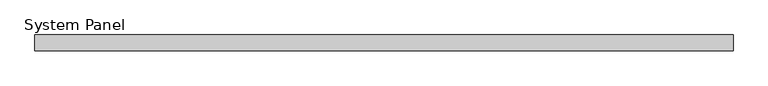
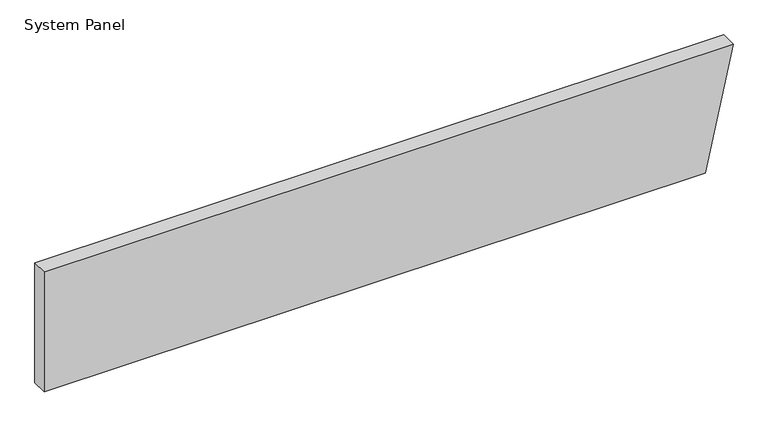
"""IFC4 building model written with IfcOpenShell, lengths in millimetres: plate geometry, System Panel : Equitilt_FlameGuard_150mm_Plain_Surfmist."""

from ifc_helpers import new_model, si_unit, frame, origin, place, context, project, spatial, polyline, outline, extrude, source, transform, mapped, element, save


def system_panel_f23bcce6(model_context):
    return source(origin(), model_context, "Body", "SweptSolid", [
        extrude(outline(polyline([(0.0, -3255.8716619), (0.0, 2995.0), (1200.0, 3255.8716619), (1200.0, -3255.8716619), (0.0, -3255.8716619)])), frame((0.0, -150.0, 0.0), z_axis=(0.0, 1.0, 0.0), x_axis=(0.0, 0.0, 1.0)), (0.0, 0.0, 1.0), 150.0),
    ])


if __name__ == "__main__":
    model = new_model("IFC4")
    model_context = context("Model", 3, world=origin())
    ifc_project = project(units=[si_unit("LENGTHUNIT", "METRE", prefix="MILLI")], contexts=[model_context])
    site = spatial("IfcSite", under=ifc_project)
    building = spatial("IfcBuilding", under=site)
    placement = place(None, origin())
    system_panel_shape = system_panel_f23bcce6(model_context)
    element("IfcPlate", 1, ObjectType="System Panel : Equitilt_FlameGuard_150mm_Plain_Surfmist", at=placement, inside=building, context=model_context, shape_type="MappedRepresentation", body=[
        mapped(system_panel_shape, transform((0.0, 0.0, 0.0), x_axis=(1.0, 0.0, 0.0), y_axis=(0.0, 1.0, 0.0), z_axis=(0.0, 0.0, 1.0))),
    ])
    save(model, "model.ifc")
